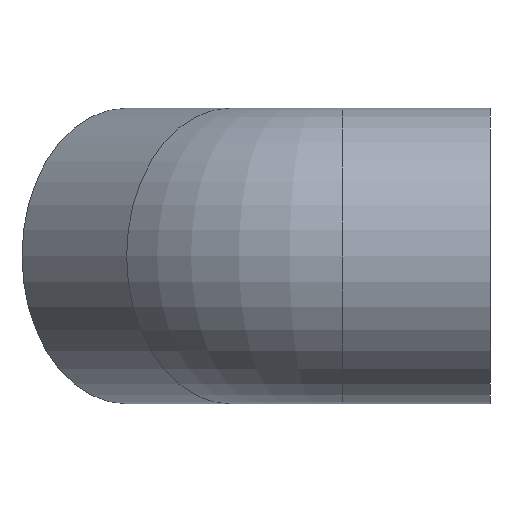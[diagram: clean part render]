
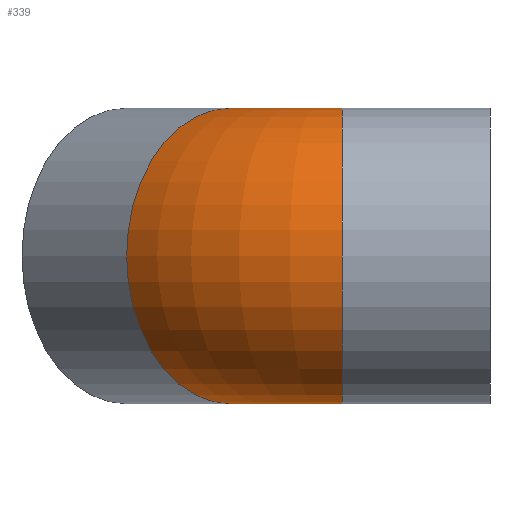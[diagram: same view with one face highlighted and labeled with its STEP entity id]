
A CAD part, left-side view. The second image highlights one B-rep face of the part: STEP entity #339.
In plain terms, the highlighted toroidal (fillet/blend) face has major radius 26.5 mm and minor radius 25 mm.
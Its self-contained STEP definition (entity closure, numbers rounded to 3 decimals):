
#16=TOROIDAL_SURFACE('',#369,26.5,25.);
#23=FACE_BOUND('',#102,.T.);
#71=FACE_OUTER_BOUND('',#101,.T.);
#101=EDGE_LOOP('',(#293));
#102=EDGE_LOOP('',(#294));
#122=CIRCLE('',#368,25.);
#123=CIRCLE('',#370,25.);
#174=VERTEX_POINT('',#8028);
#175=VERTEX_POINT('',#8031);
#218=EDGE_CURVE('',#174,#174,#122,.T.);
#219=EDGE_CURVE('',#175,#175,#123,.T.);
#293=ORIENTED_EDGE('',*,*,#218,.F.);
#294=ORIENTED_EDGE('',*,*,#219,.T.);
#339=ADVANCED_FACE('',(#71,#23),#16,.T.);
#368=AXIS2_PLACEMENT_3D('',#8029,#429,#430);
#369=AXIS2_PLACEMENT_3D('',#8030,#431,#432);
#370=AXIS2_PLACEMENT_3D('',#8032,#433,#434);
#429=DIRECTION('center_axis',(0.707,0.707,0.));
#430=DIRECTION('ref_axis',(0.707,-0.707,0.));
#431=DIRECTION('center_axis',(0.,0.,-1.));
#432=DIRECTION('ref_axis',(-1.,0.,0.));
#433=DIRECTION('center_axis',(0.,1.,0.));
#434=DIRECTION('ref_axis',(1.,0.,0.));
#8028=CARTESIAN_POINT('',(-9.916,61.439,0.));
#8029=CARTESIAN_POINT('Origin',(7.762,43.762,0.));
#8030=CARTESIAN_POINT('Origin',(26.5,25.023,0.));
#8031=CARTESIAN_POINT('',(-25.,25.023,0.));
#8032=CARTESIAN_POINT('Origin',(0.,25.023,0.));
